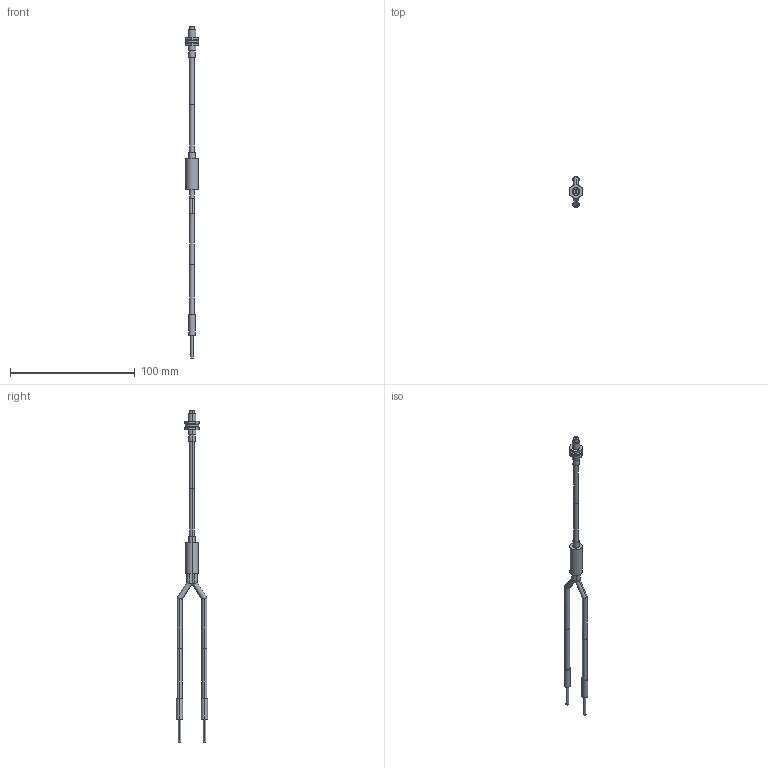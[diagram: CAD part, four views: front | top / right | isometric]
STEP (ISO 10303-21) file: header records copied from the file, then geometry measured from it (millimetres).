
FILE_DESCRIPTION (( 'STEP AP203' ), '1' );
FILE_NAME ('FD-H35-M2.STEP', '2005-09-04T09:46:19', ( '川島良英' ), ( ' ' ), 'SwSTEP 2.0', 'SolidWorks 2004251', '' );
FILE_SCHEMA (( 'CONFIG_CONTROL_DESIGN' ));
Length unit declared in the file: millimetre
Products named in the file (1): FD-H35-M2
Bounding box: 11 x 25 x 266 mm (x, y, z)
Volume: 7208.3 mm3; surface area: 6485.6 mm2
Topology: 7 solids, 7 shells, 86 faces, 180 edges, 120 vertices
Faces by surface type: cylinder 48, plane 38
Entity records: 2401 total; most frequent: CARTESIAN_POINT 435, DIRECTION 418, ORIENTED_EDGE 360, EDGE_CURVE 180, AXIS2_PLACEMENT_3D 167, VERTEX_POINT 120, EDGE_LOOP 104, FACE_OUTER_BOUND 86
